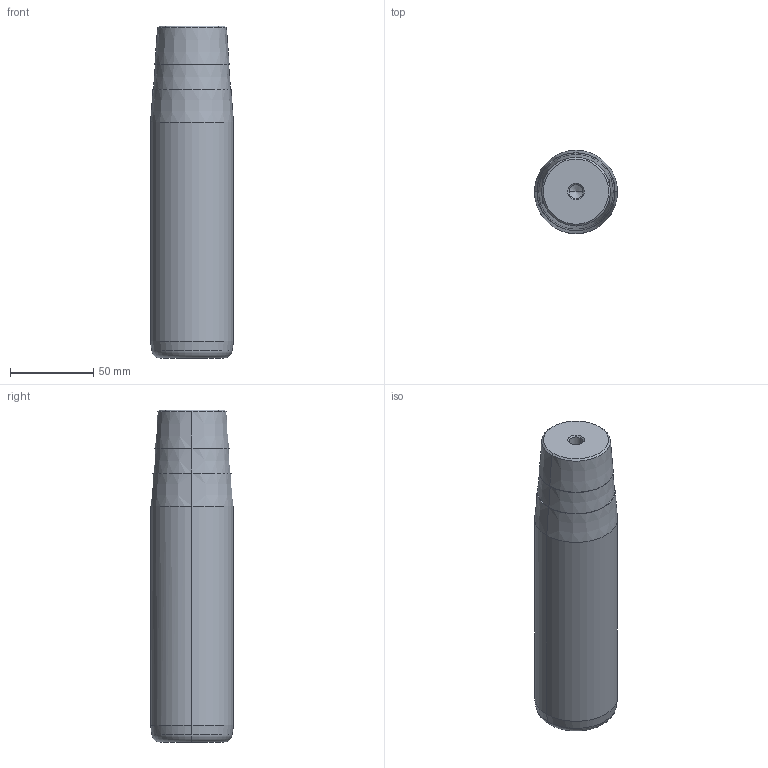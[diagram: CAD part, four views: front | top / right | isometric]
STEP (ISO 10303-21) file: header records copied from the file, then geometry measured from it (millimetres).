
FILE_DESCRIPTION(('CATIA V5 STEP Exchange'),'2;1');
FILE_NAME('C:\Users\Utente\Desktop\IO LAVORO\3D X SITO CF\X SITO\722\722-50x160x200.stp','2021-01-08T14:57:14+00:00',('none'),('none'),'CATIA Version 5 Release 20 GA (IN-10)','CATIA V5 STEP AP203','none');
FILE_SCHEMA(('CONFIG_CONTROL_DESIGN'));
Length unit declared in the file: millimetre
Products named in the file (1): 722-50x160x200
Bounding box: 50 x 50 x 200 mm (x, y, z)
Volume: 368978.9 mm3; surface area: 34814.8 mm2
Topology: 1 solids, 1 shells, 32 faces, 66 edges, 34 vertices
Faces by surface type: cone 22, cylinder 6, plane 2, torus 2
Entity records: 866 total; most frequent: CARTESIAN_POINT 189, ORIENTED_EDGE 124, DIRECTION 123, AXIS2_PLACEMENT_3D 64, EDGE_CURVE 62, EDGE_LOOP 34, VERTEX_POINT 34, ADVANCED_FACE 32
